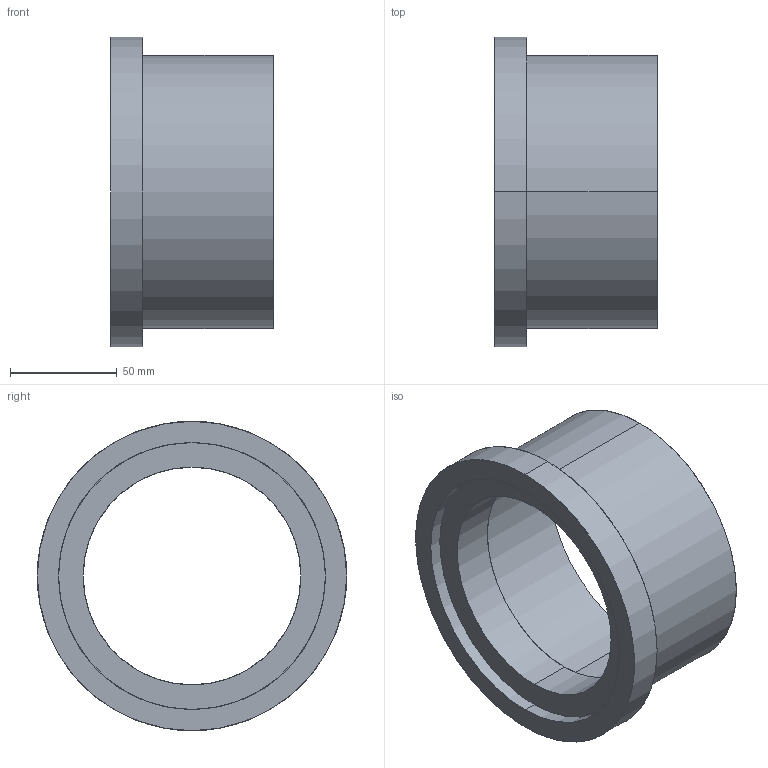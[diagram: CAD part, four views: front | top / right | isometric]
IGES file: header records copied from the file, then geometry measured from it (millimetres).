
Start section: SolidWorks IGES file using analytic representation for surfaces
Global section: file name: \\Datacenterrd1\@研發部\設計一課(冷媒)\(1)-文管中心\(2)-3D文管\(8)-Compressor 3Doutline(Surface)\Pipe\IGS\4 (4 鋼管用).IGS; native system: SolidWorks 2013; preprocessor: SolidWorks 2013; author: hedylu; date: 140715.091204; units: millimetre
Bounding box: 76 x 145 x 145 mm (x, y, z)
Surface area: 74199.8 mm2 (no closed solid volume)
Topology: 0 solids, 0 shells, 19 faces, 696 edges, 696 vertices
Faces by surface type: revolution 12, bspline 7
